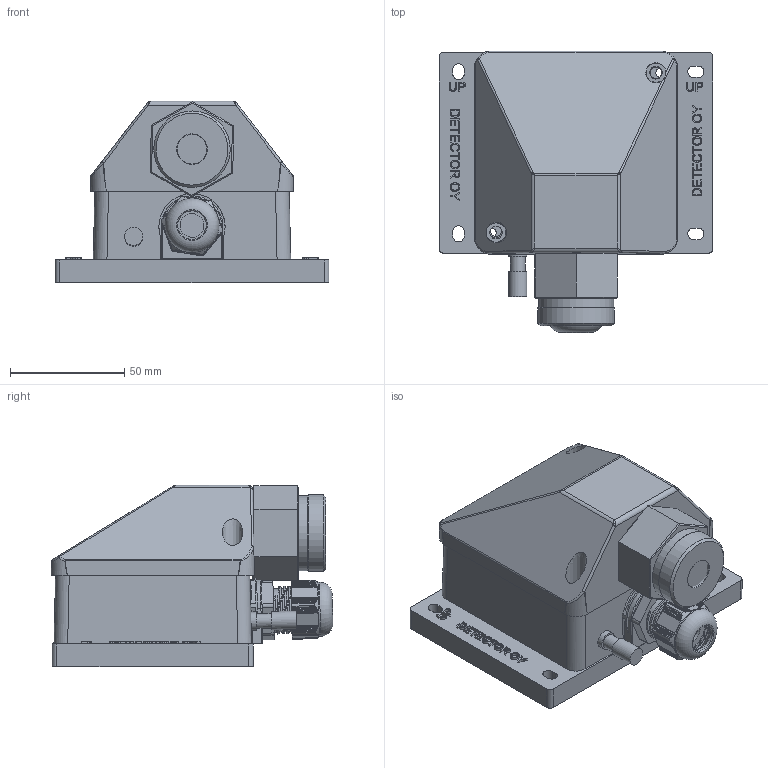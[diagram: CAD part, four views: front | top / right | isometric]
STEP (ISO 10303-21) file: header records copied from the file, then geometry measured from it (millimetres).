
FILE_DESCRIPTION(/* description */ (''),/* implementation_level */ '2;1');
FILE_NAME(/* name */ 'DGTk2-ex.step',/* time_stamp */ '2026-06-29T12:54:45+03:00',/* author */ (''),/* organization */ (''),/* preprocessor_version */ 'ST-DEVELOPER v20.1',/* originating_system */ 'Autodesk Translation Framework v15.8.0.0',/* authorisation */ '');
FILE_SCHEMA (('AUTOMOTIVE_DESIGN { 1 0 10303 214 3 1 1 }'));
Length unit declared in the file: millimetre
Products named in the file (10): 2026-06-22-15-26-52-673; 311 kotelo _ Detector; NONE; Vinokansi K40; 2026-06-22-16-22-14-972; 2026-06-23-10-21-11-041; 1; 2; 3; 2026-06-23-15-47-37-805
Assembly tree (9 placements, depth 3):
  2026-06-22-15-26-52-673
    311 kotelo _ Detector
    NONE
    Vinokansi K40
    2026-06-22-16-22-14-972
    2026-06-23-10-21-11-041
      1
      2
      3
    2026-06-23-15-47-37-805
Bounding box: 120 x 123.39 x 79.5 mm (x, y, z)
Volume: 226392.6 mm3; surface area: 108383.9 mm2
Topology: 8 solids, 8 shells, 1199 faces, 3117 edges, 2006 vertices
Faces by surface type: plane 520, cylinder 332, bspline 276, cone 30, sphere 22, torus 19
Full cylindrical faces by diameter (mm): 2.5 x2, 3 x2, 4 x6, 5 x3, 5.5 x4, 6 x2, 6.4 x1, 8 x2, 9 x3, 10 x2, 12.5 x1, 12.6 x1, 13 x1, 17 x1, 17.92 x1, 18 x1, 18.95 x2, 19 x4, 20 x1, 20.8 x3, 21.5 x3, 22.5 x1, 23.7 x1, 29 x1, 32.9 x1, 33.5 x1, 73 x1
Entity records: 43170 total; most frequent: CARTESIAN_POINT 15271, ORIENTED_EDGE 6190, DIRECTION 4912, EDGE_CURVE 3095, VERTEX_POINT 2006, LINE 1722, VECTOR 1722, AXIS2_PLACEMENT_3D 1595
